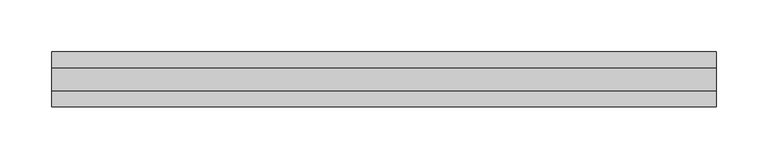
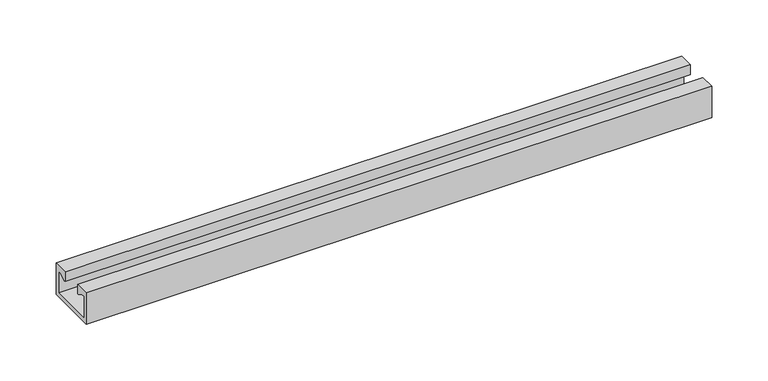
"""IFC4 building model written with IfcOpenShell, lengths in millimetres: fastener geometry, JM W JORDAHL® Mounting Channels : JM W53/34 - L."""

from ifc_helpers import new_model, si_unit, frame, origin, place, context, project, spatial, polyline, outline, extrude, source, transform, mapped, element, save


def fastener_8d19eec8(model_context):
    return source(origin(), model_context, "Body", "SweptSolid", [
        extrude(outline(polyline([(-11.25, 34.0), (-11.25, 23.5), (-12.25, 23.5), (-19.1782032, 27.5), (-22.5, 27.5), (-22.5, 4.0), (22.5, 4.0), (22.5, 27.5), (19.1782032, 27.5), (12.25, 23.5), (11.25, 23.5), (11.25, 34.0), (26.5, 34.0), (26.5, 0.0), (-26.5, 0.0), (-26.5, 34.0), (-11.25, 34.0)])), frame((0.0, 0.0, 0.0), z_axis=(1.0, 0.0, 0.0), x_axis=(0.0, 1.0, 0.0)), (0.0, 0.0, 1.0), 640.0),
    ])


if __name__ == "__main__":
    model = new_model("IFC4")
    model_context = context("Model", 3, world=origin())
    ifc_project = project(units=[si_unit("LENGTHUNIT", "METRE", prefix="MILLI")], contexts=[model_context])
    site = spatial("IfcSite", under=ifc_project)
    building = spatial("IfcBuilding", under=site)
    placement = place(None, origin())
    fastener_shape = fastener_8d19eec8(model_context)
    element("IfcFastener", 1, ObjectType="JM W JORDAHL® Mounting Channels : JM W53/34 - L", at=placement, inside=building, context=model_context, shape_type="MappedRepresentation", body=[
        mapped(fastener_shape, transform((0.0, 0.0, 0.0), x_axis=(1.0, 0.0, 0.0), y_axis=(0.0, 1.0, 0.0), z_axis=(0.0, 0.0, 1.0))),
    ])
    save(model, "model.ifc")
